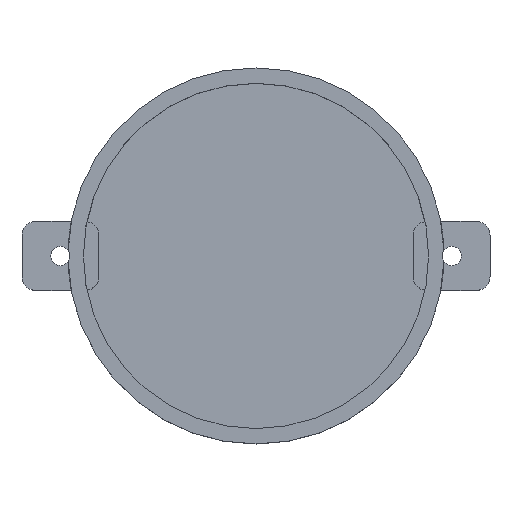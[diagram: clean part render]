
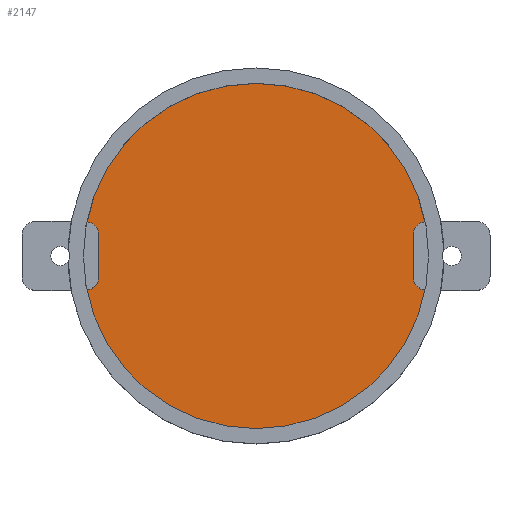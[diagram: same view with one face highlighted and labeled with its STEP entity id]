
A CAD part, top view. The second image highlights one B-rep face of the part: STEP entity #2147.
In plain terms, the highlighted planar face has unit normal (0, 0, 1).
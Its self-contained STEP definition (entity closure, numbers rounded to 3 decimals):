
#1701 = CYLINDRICAL_SURFACE('',#1702,22.5);
#1702 = AXIS2_PLACEMENT_3D('',#1703,#1704,#1705);
#1703 = CARTESIAN_POINT('',(0.,40.,-10.6));
#1704 = DIRECTION('',(-0.,-0.,-1.));
#1705 = DIRECTION('',(1.,0.,0.));
#1804 = EDGE_CURVE('',#1805,#1805,#1807,.T.);
#1805 = VERTEX_POINT('',#1806);
#1806 = CARTESIAN_POINT('',(22.5,40.,-10.6));
#1807 = SURFACE_CURVE('',#1808,(#1813,#1820),.PCURVE_S1.);
#1808 = CIRCLE('',#1809,22.5);
#1809 = AXIS2_PLACEMENT_3D('',#1810,#1811,#1812);
#1810 = CARTESIAN_POINT('',(0.,40.,-10.6));
#1811 = DIRECTION('',(0.,0.,1.));
#1812 = DIRECTION('',(1.,0.,0.));
#1813 = PCURVE('',#1701,#1814);
#1814 = DEFINITIONAL_REPRESENTATION('',(#1815),#1819);
#1815 = LINE('',#1816,#1817);
#1816 = CARTESIAN_POINT('',(-0.,0.));
#1817 = VECTOR('',#1818,1.);
#1818 = DIRECTION('',(-1.,0.));
#1819 = ( GEOMETRIC_REPRESENTATION_CONTEXT(2) 
PARAMETRIC_REPRESENTATION_CONTEXT() REPRESENTATION_CONTEXT('2D SPACE',''
  ) );
#1820 = PCURVE('',#1821,#1826);
#1821 = PLANE('',#1822);
#1822 = AXIS2_PLACEMENT_3D('',#1823,#1824,#1825);
#1823 = CARTESIAN_POINT('',(0.,40.,-10.6));
#1824 = DIRECTION('',(0.,0.,1.));
#1825 = DIRECTION('',(1.,0.,-0.));
#1826 = DEFINITIONAL_REPRESENTATION('',(#1827),#1831);
#1827 = CIRCLE('',#1828,22.5);
#1828 = AXIS2_PLACEMENT_2D('',#1829,#1830);
#1829 = CARTESIAN_POINT('',(0.,0.));
#1830 = DIRECTION('',(1.,0.));
#1831 = ( GEOMETRIC_REPRESENTATION_CONTEXT(2) 
PARAMETRIC_REPRESENTATION_CONTEXT() REPRESENTATION_CONTEXT('2D SPACE',''
  ) );
#2147 = ADVANCED_FACE('',(#2148),#1821,.T.);
#2148 = FACE_BOUND('',#2149,.T.);
#2149 = EDGE_LOOP('',(#2150));
#2150 = ORIENTED_EDGE('',*,*,#1804,.T.);
